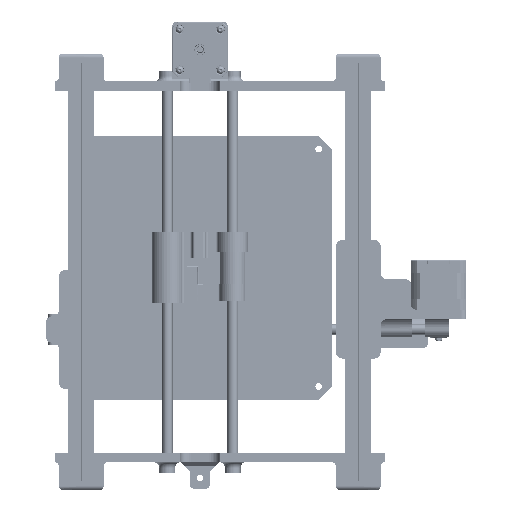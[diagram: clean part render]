
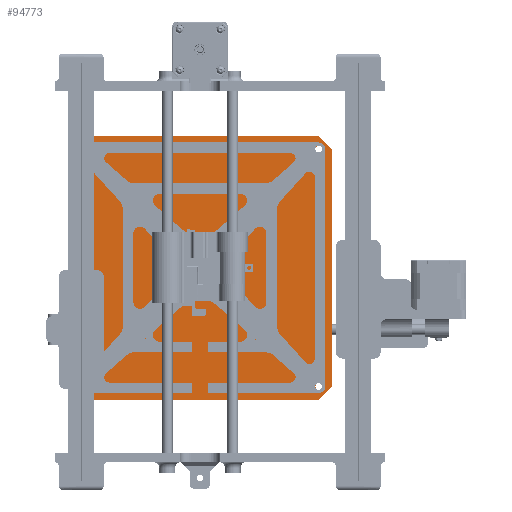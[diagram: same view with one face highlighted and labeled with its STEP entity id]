
A CAD part, front view. The second image highlights one B-rep face of the part: STEP entity #94773.
In plain terms, the highlighted planar face has unit normal (0, -1, 0).
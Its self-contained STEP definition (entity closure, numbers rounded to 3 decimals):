
#776 = DIRECTION ( 'NONE',  ( 0., -1., 0. ) ) ;
#1406 = CARTESIAN_POINT ( 'NONE',  ( -100., -1.25, -90. ) ) ;
#1615 = CIRCLE ( 'NONE', #3665, 2.5 ) ;
#1706 = CARTESIAN_POINT ( 'NONE',  ( 100., -1.25, 90. ) ) ;
#2037 = PLANE ( 'NONE',  #37313 ) ;
#2635 = CIRCLE ( 'NONE', #52320, 2.5 ) ;
#3197 = ORIENTED_EDGE ( 'NONE', *, *, #100659, .F. ) ;
#3665 = AXIS2_PLACEMENT_3D ( 'NONE', #108971, #48167, #87669 ) ;
#5476 = VECTOR ( 'NONE', #94165, 1000. ) ;
#5613 = EDGE_CURVE ( 'NONE', #36215, #50350, #31447, .T. ) ;
#6128 = AXIS2_PLACEMENT_3D ( 'NONE', #127549, #59613, #79071 ) ;
#6602 = DIRECTION ( 'NONE',  ( -0.707, 0., -0.707 ) ) ;
#6925 = CARTESIAN_POINT ( 'NONE',  ( -90., -1.25, -87.5 ) ) ;
#7036 = DIRECTION ( 'NONE',  ( 0., 0., 1. ) ) ;
#8032 = CARTESIAN_POINT ( 'NONE',  ( -90., -1.25, 87.5 ) ) ;
#9035 = EDGE_CURVE ( 'NONE', #36773, #93501, #16343, .T. ) ;
#9600 = VERTEX_POINT ( 'NONE', #69108 ) ;
#9804 = VERTEX_POINT ( 'NONE', #116201 ) ;
#11328 = VECTOR ( 'NONE', #95299, 1000. ) ;
#12222 = ORIENTED_EDGE ( 'NONE', *, *, #127856, .T. ) ;
#12346 = ORIENTED_EDGE ( 'NONE', *, *, #9035, .F. ) ;
#13096 = DIRECTION ( 'NONE',  ( 0., 0., -1. ) ) ;
#16343 = LINE ( 'NONE', #63683, #56745 ) ;
#16781 = DIRECTION ( 'NONE',  ( 0., 1., 0. ) ) ;
#17442 = ORIENTED_EDGE ( 'NONE', *, *, #98777, .T. ) ;
#17918 = CARTESIAN_POINT ( 'NONE',  ( 90., -1.25, 87.5 ) ) ;
#18582 = CARTESIAN_POINT ( 'NONE',  ( -90., -1.25, -100. ) ) ;
#20262 = CARTESIAN_POINT ( 'NONE',  ( -90., -1.25, 100. ) ) ;
#20275 = VERTEX_POINT ( 'NONE', #80420 ) ;
#20843 = CARTESIAN_POINT ( 'NONE',  ( -90., -1.25, -92.5 ) ) ;
#21719 = CARTESIAN_POINT ( 'NONE',  ( -100., -1.25, 90. ) ) ;
#23496 = LINE ( 'NONE', #62368, #25324 ) ;
#24732 = CARTESIAN_POINT ( 'NONE',  ( -100., -1.25, 90. ) ) ;
#24833 = CARTESIAN_POINT ( 'NONE',  ( 90., -1.25, 90. ) ) ;
#25079 = VERTEX_POINT ( 'NONE', #116425 ) ;
#25324 = VECTOR ( 'NONE', #13096, 1000. ) ;
#25647 = EDGE_CURVE ( 'NONE', #50277, #36215, #36377, .T. ) ;
#27019 = VECTOR ( 'NONE', #50898, 1000. ) ;
#27254 = LINE ( 'NONE', #108139, #119098 ) ;
#27538 = EDGE_LOOP ( 'NONE', ( #17442, #12222 ) ) ;
#27743 = DIRECTION ( 'NONE',  ( 0., 1., 0. ) ) ;
#29029 = ORIENTED_EDGE ( 'NONE', *, *, #107129, .T. ) ;
#29333 = DIRECTION ( 'NONE',  ( 0., 0., -1. ) ) ;
#30900 = EDGE_LOOP ( 'NONE', ( #85466, #78916 ) ) ;
#31045 = VECTOR ( 'NONE', #79545, 1000. ) ;
#31447 = LINE ( 'NONE', #21719, #27019 ) ;
#33867 = EDGE_CURVE ( 'NONE', #104121, #99498, #1615, .T. ) ;
#34802 = ORIENTED_EDGE ( 'NONE', *, *, #119394, .T. ) ;
#35501 = DIRECTION ( 'NONE',  ( -1., 0., 0. ) ) ;
#36215 = VERTEX_POINT ( 'NONE', #74322 ) ;
#36377 = LINE ( 'NONE', #24732, #11328 ) ;
#36773 = VERTEX_POINT ( 'NONE', #69410 ) ;
#37204 = EDGE_LOOP ( 'NONE', ( #56877, #29029 ) ) ;
#37313 = AXIS2_PLACEMENT_3D ( 'NONE', #70142, #776, #29333 ) ;
#38738 = DIRECTION ( 'NONE',  ( 0., 0., 1. ) ) ;
#39830 = VERTEX_POINT ( 'NONE', #45363 ) ;
#40643 = LINE ( 'NONE', #1706, #31045 ) ;
#40948 = CARTESIAN_POINT ( 'NONE',  ( 90., -1.25, -100. ) ) ;
#42721 = ORIENTED_EDGE ( 'NONE', *, *, #25647, .F. ) ;
#45363 = CARTESIAN_POINT ( 'NONE',  ( -90., -1.25, -100. ) ) ;
#46056 = DIRECTION ( 'NONE',  ( 0., 1., 0. ) ) ;
#47041 = CIRCLE ( 'NONE', #63563, 2.5 ) ;
#47671 = AXIS2_PLACEMENT_3D ( 'NONE', #88112, #46056, #67412 ) ;
#47905 = AXIS2_PLACEMENT_3D ( 'NONE', #117677, #27743, #38738 ) ;
#48054 = CARTESIAN_POINT ( 'NONE',  ( 90., -1.25, 100. ) ) ;
#48167 = DIRECTION ( 'NONE',  ( 0., 1., 0. ) ) ;
#49987 = EDGE_CURVE ( 'NONE', #39830, #50277, #123879, .T. ) ;
#50016 = CIRCLE ( 'NONE', #47905, 2.5 ) ;
#50277 = VERTEX_POINT ( 'NONE', #1406 ) ;
#50350 = VERTEX_POINT ( 'NONE', #20262 ) ;
#50898 = DIRECTION ( 'NONE',  ( 0.707, 0., 0.707 ) ) ;
#52320 = AXIS2_PLACEMENT_3D ( 'NONE', #67312, #16781, #7036 ) ;
#52939 = EDGE_CURVE ( 'NONE', #81401, #9600, #121844, .T. ) ;
#54824 = CARTESIAN_POINT ( 'NONE',  ( 90., -1.25, -90. ) ) ;
#55375 = DIRECTION ( 'NONE',  ( 0., 0., 1. ) ) ;
#56745 = VECTOR ( 'NONE', #6602, 1000. ) ;
#56877 = ORIENTED_EDGE ( 'NONE', *, *, #33867, .T. ) ;
#59613 = DIRECTION ( 'NONE',  ( 0., 1., 0. ) ) ;
#59772 = FACE_OUTER_BOUND ( 'NONE', #68531, .T. ) ;
#62368 = CARTESIAN_POINT ( 'NONE',  ( 100., -1.25, -90. ) ) ;
#63563 = AXIS2_PLACEMENT_3D ( 'NONE', #83256, #125223, #55375 ) ;
#63683 = CARTESIAN_POINT ( 'NONE',  ( 100., -1.25, -90. ) ) ;
#64046 = EDGE_LOOP ( 'NONE', ( #122199, #34802 ) ) ;
#64645 = ORIENTED_EDGE ( 'NONE', *, *, #49987, .F. ) ;
#67312 = CARTESIAN_POINT ( 'NONE',  ( -90., -1.25, 90. ) ) ;
#67412 = DIRECTION ( 'NONE',  ( 0., 0., 1. ) ) ;
#68531 = EDGE_LOOP ( 'NONE', ( #42721, #64645, #3197, #12346, #85861, #78203, #109911, #122639 ) ) ;
#68681 = VECTOR ( 'NONE', #35501, 1000. ) ;
#69108 = CARTESIAN_POINT ( 'NONE',  ( 90., -1.25, 92.5 ) ) ;
#69410 = CARTESIAN_POINT ( 'NONE',  ( 100., -1.25, -90. ) ) ;
#70142 = CARTESIAN_POINT ( 'NONE',  ( 0., -1.25, 0. ) ) ;
#70161 = CIRCLE ( 'NONE', #84588, 2.5 ) ;
#70741 = EDGE_CURVE ( 'NONE', #120109, #36773, #23496, .T. ) ;
#70902 = VERTEX_POINT ( 'NONE', #48054 ) ;
#73623 = DIRECTION ( 'NONE',  ( 0., 1., 0. ) ) ;
#74322 = CARTESIAN_POINT ( 'NONE',  ( -100., -1.25, 90. ) ) ;
#74748 = CARTESIAN_POINT ( 'NONE',  ( -100., -1.25, -90. ) ) ;
#78203 = ORIENTED_EDGE ( 'NONE', *, *, #97663, .F. ) ;
#78916 = ORIENTED_EDGE ( 'NONE', *, *, #91916, .T. ) ;
#79071 = DIRECTION ( 'NONE',  ( 0., 0., 1. ) ) ;
#79545 = DIRECTION ( 'NONE',  ( 0.707, 0., -0.707 ) ) ;
#80420 = CARTESIAN_POINT ( 'NONE',  ( 90., -1.25, -92.5 ) ) ;
#81139 = FACE_BOUND ( 'NONE', #64046, .T. ) ;
#81401 = VERTEX_POINT ( 'NONE', #17918 ) ;
#81776 = FACE_BOUND ( 'NONE', #37204, .T. ) ;
#83256 = CARTESIAN_POINT ( 'NONE',  ( -90., -1.25, -90. ) ) ;
#84588 = AXIS2_PLACEMENT_3D ( 'NONE', #24833, #112246, #93489 ) ;
#84748 = VERTEX_POINT ( 'NONE', #8032 ) ;
#85466 = ORIENTED_EDGE ( 'NONE', *, *, #52939, .T. ) ;
#85861 = ORIENTED_EDGE ( 'NONE', *, *, #70741, .F. ) ;
#86631 = LINE ( 'NONE', #18582, #68681 ) ;
#86818 = DIRECTION ( 'NONE',  ( 1., 0., 0. ) ) ;
#87430 = EDGE_CURVE ( 'NONE', #50350, #70902, #27254, .T. ) ;
#87669 = DIRECTION ( 'NONE',  ( 0., 0., 1. ) ) ;
#88112 = CARTESIAN_POINT ( 'NONE',  ( -90., -1.25, 90. ) ) ;
#90820 = FACE_BOUND ( 'NONE', #30900, .T. ) ;
#91916 = EDGE_CURVE ( 'NONE', #9600, #81401, #70161, .T. ) ;
#93489 = DIRECTION ( 'NONE',  ( 0., 0., 1. ) ) ;
#93501 = VERTEX_POINT ( 'NONE', #40948 ) ;
#94165 = DIRECTION ( 'NONE',  ( -0.707, 0., 0.707 ) ) ;
#94603 = CIRCLE ( 'NONE', #98672, 2.5 ) ;
#94773 = ADVANCED_FACE ( 'NONE', ( #81139, #108962, #59772, #81776, #90820 ), #2037, .T. ) ;
#95299 = DIRECTION ( 'NONE',  ( 0., 0., 1. ) ) ;
#97663 = EDGE_CURVE ( 'NONE', #70902, #120109, #40643, .T. ) ;
#98672 = AXIS2_PLACEMENT_3D ( 'NONE', #54824, #73623, #103370 ) ;
#98777 = EDGE_CURVE ( 'NONE', #20275, #25079, #50016, .T. ) ;
#99498 = VERTEX_POINT ( 'NONE', #6925 ) ;
#100659 = EDGE_CURVE ( 'NONE', #93501, #39830, #86631, .T. ) ;
#103370 = DIRECTION ( 'NONE',  ( 0., 0., 1. ) ) ;
#104121 = VERTEX_POINT ( 'NONE', #20843 ) ;
#107129 = EDGE_CURVE ( 'NONE', #99498, #104121, #47041, .T. ) ;
#108139 = CARTESIAN_POINT ( 'NONE',  ( 90., -1.25, 100. ) ) ;
#108962 = FACE_BOUND ( 'NONE', #27538, .T. ) ;
#108971 = CARTESIAN_POINT ( 'NONE',  ( -90., -1.25, -90. ) ) ;
#109911 = ORIENTED_EDGE ( 'NONE', *, *, #87430, .F. ) ;
#110252 = EDGE_CURVE ( 'NONE', #84748, #9804, #2635, .T. ) ;
#112246 = DIRECTION ( 'NONE',  ( 0., 1., 0. ) ) ;
#116201 = CARTESIAN_POINT ( 'NONE',  ( -90., -1.25, 92.5 ) ) ;
#116425 = CARTESIAN_POINT ( 'NONE',  ( 90., -1.25, -87.5 ) ) ;
#117677 = CARTESIAN_POINT ( 'NONE',  ( 90., -1.25, -90. ) ) ;
#119098 = VECTOR ( 'NONE', #86818, 1000. ) ;
#119394 = EDGE_CURVE ( 'NONE', #9804, #84748, #121997, .T. ) ;
#120109 = VERTEX_POINT ( 'NONE', #125895 ) ;
#121844 = CIRCLE ( 'NONE', #6128, 2.5 ) ;
#121997 = CIRCLE ( 'NONE', #47671, 2.5 ) ;
#122199 = ORIENTED_EDGE ( 'NONE', *, *, #110252, .T. ) ;
#122639 = ORIENTED_EDGE ( 'NONE', *, *, #5613, .F. ) ;
#123879 = LINE ( 'NONE', #74748, #5476 ) ;
#125223 = DIRECTION ( 'NONE',  ( 0., 1., 0. ) ) ;
#125895 = CARTESIAN_POINT ( 'NONE',  ( 100., -1.25, 90. ) ) ;
#127549 = CARTESIAN_POINT ( 'NONE',  ( 90., -1.25, 90. ) ) ;
#127856 = EDGE_CURVE ( 'NONE', #25079, #20275, #94603, .T. ) ;
